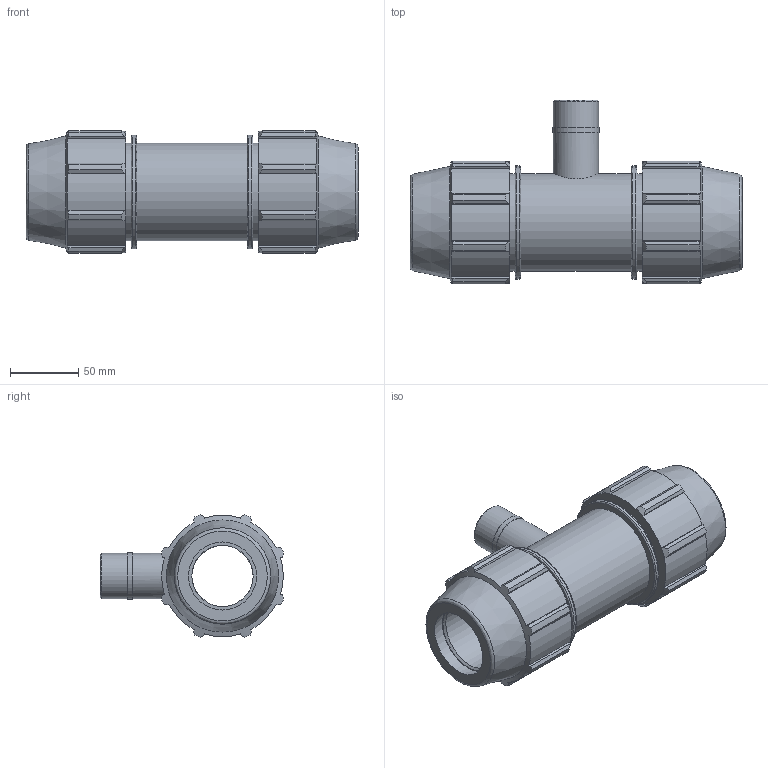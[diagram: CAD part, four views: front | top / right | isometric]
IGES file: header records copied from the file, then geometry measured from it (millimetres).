
Global section: file name: 078100050010_188100050010_0781060500100A.ipt; native system: Autodesk Inventor 2015; preprocessor: unknown; author: Кирилл,,11,0; organization: 20170224.180708; date: 20170606.172410; units: millimetre
Bounding box: 244 x 135.16 x 90.33 mm (x, y, z)
Volume: 794085.2 mm3; surface area: 128473.1 mm2
Topology: 1 solids, 1 shells, 154 faces, 433 edges, 293 vertices
Faces by surface type: plane 79, cylinder 40, cone 21, revolution 14
Full cylindrical faces by diameter (mm): 33.249 x2, 33.914 x1, 72 x3, 83.52 x2
